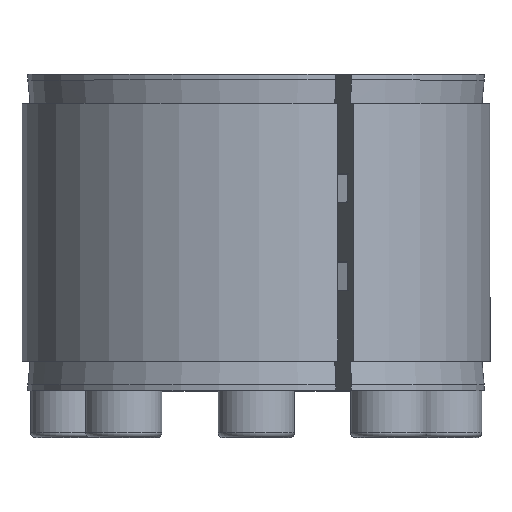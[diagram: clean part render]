
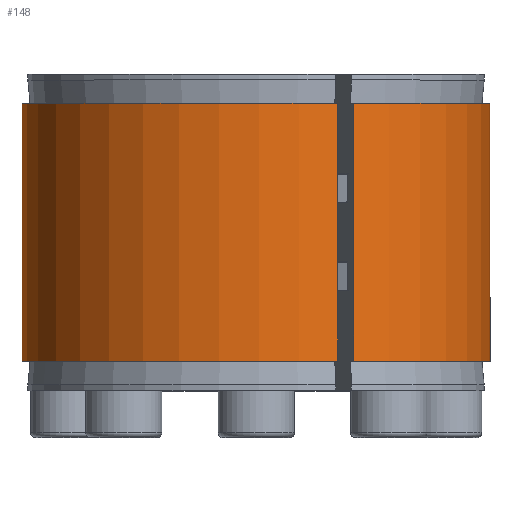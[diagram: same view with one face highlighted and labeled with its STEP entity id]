
A CAD part, top view. The second image highlights one B-rep face of the part: STEP entity #148.
In plain terms, the highlighted cylindrical face has radius 40 mm (diameter 80 mm), a partial arc.
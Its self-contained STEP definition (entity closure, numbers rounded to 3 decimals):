
#148 = ADVANCED_FACE( '', ( #348 ), #349, .T. );
#348 = FACE_OUTER_BOUND( '', #582, .T. );
#349 = CYLINDRICAL_SURFACE( '', #583, 40. );
#582 = EDGE_LOOP( '', ( #954, #955, #956, #957 ) );
#583 = AXIS2_PLACEMENT_3D( '', #958, #959, #960 );
#954 = ORIENTED_EDGE( '', *, *, #1257, .F. );
#955 = ORIENTED_EDGE( '', *, *, #1212, .T. );
#956 = ORIENTED_EDGE( '', *, *, #1240, .F. );
#957 = ORIENTED_EDGE( '', *, *, #1258, .F. );
#958 = CARTESIAN_POINT( '', ( 0., -60., 0. ) );
#959 = DIRECTION( '', ( 0., 1., 0. ) );
#960 = DIRECTION( '', ( 0., 0., -1. ) );
#1212 = EDGE_CURVE( '', #1473, #1475, #1477, .T. );
#1240 = EDGE_CURVE( '', #1516, #1475, #1518, .F. );
#1257 = EDGE_CURVE( '', #1473, #1541, #1542, .T. );
#1258 = EDGE_CURVE( '', #1541, #1516, #1543, .T. );
#1473 = VERTEX_POINT( '', #1866 );
#1475 = VERTEX_POINT( '', #1869 );
#1477 = CIRCLE( '', #1872, 40. );
#1516 = VERTEX_POINT( '', #1927 );
#1518 = LINE( '', #1930, #1931 );
#1541 = VERTEX_POINT( '', #1962 );
#1542 = LINE( '', #1963, #1964 );
#1543 = CIRCLE( '', #1965, 40. );
#1866 = CARTESIAN_POINT( '', ( 13.953, 49., 37.487 ) );
#1869 = CARTESIAN_POINT( '', ( 16.641, 49., 36.374 ) );
#1872 = AXIS2_PLACEMENT_3D( '', #2181, #2182, #2183 );
#1927 = CARTESIAN_POINT( '', ( 16.641, 5., 36.374 ) );
#1930 = CARTESIAN_POINT( '', ( 16.641, -60., 36.374 ) );
#1931 = VECTOR( '', #2213, 1000. );
#1962 = CARTESIAN_POINT( '', ( 13.953, 5., 37.487 ) );
#1963 = CARTESIAN_POINT( '', ( 13.953, -60., 37.487 ) );
#1964 = VECTOR( '', #2234, 1000. );
#1965 = AXIS2_PLACEMENT_3D( '', #2235, #2236, #2237 );
#2181 = CARTESIAN_POINT( '', ( 0., 49., 0. ) );
#2182 = DIRECTION( '', ( 0., -1., 0. ) );
#2183 = DIRECTION( '', ( 0., 0., -1. ) );
#2213 = DIRECTION( '', ( 0., -1., 0. ) );
#2234 = DIRECTION( '', ( 0., -1., 0. ) );
#2235 = CARTESIAN_POINT( '', ( 0., 5., 0. ) );
#2236 = DIRECTION( '', ( 0., -1., 0. ) );
#2237 = DIRECTION( '', ( 0., 0., -1. ) );
